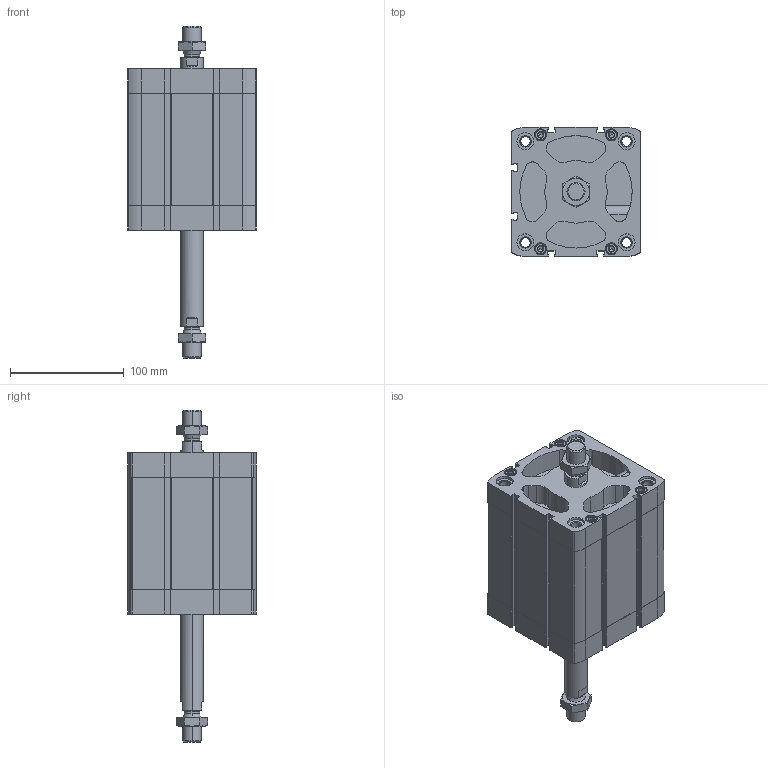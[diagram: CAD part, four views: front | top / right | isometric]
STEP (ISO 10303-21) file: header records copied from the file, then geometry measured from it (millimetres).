
FILE_DESCRIPTION (( 'STEP AP203' ), '1' );
FILE_NAME ('CCN100-75-P.STEP', '2020-06-22T19:11:54', ( '' ), ( '' ), 'SwSTEP 2.0', 'SolidWorks 2019', '' );
FILE_SCHEMA (( 'CONFIG_CONTROL_DESIGN' ));
Length unit declared in the file: millimetre
Products named in the file (1): CCN100-75-P
Bounding box: 113.5 x 113.5 x 292.4 mm (x, y, z)
Volume: 1082154.6 mm3; surface area: 228666.7 mm2
Topology: 4 solids, 4 shells, 685 faces, 1757 edges, 1118 vertices
Faces by surface type: plane 305, cylinder 280, cone 92, torus 8
Entity records: 22642 total; most frequent: CARTESIAN_POINT 5549, DIRECTION 3721, ORIENTED_EDGE 3482, EDGE_CURVE 1741, AXIS2_PLACEMENT_3D 1392, VERTEX_POINT 1118, VECTOR 937, LINE 937
